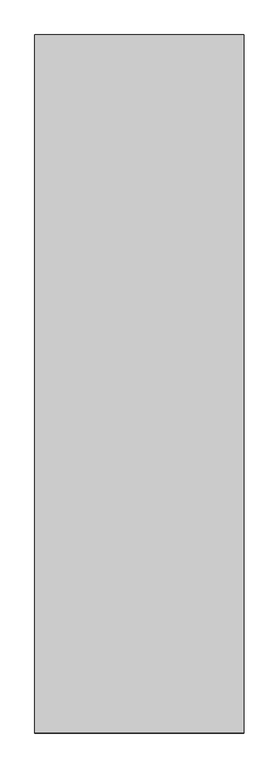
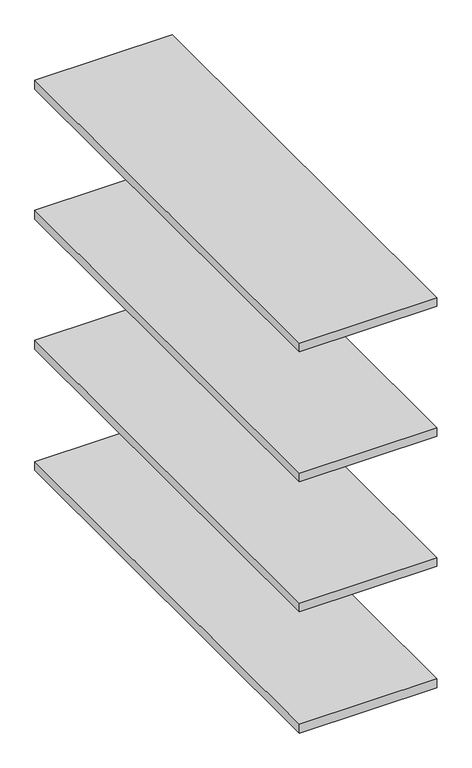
"""IFC4 building model written with IfcOpenShell, lengths in millimetres: proxy geometry, 香木隔板 : 香木隔板."""

import ifcopenshell
import ifcopenshell.guid

model = None  # the IFC model being written
_history = None  # IfcOwnerHistory: only IFC2X3 demands one
_inside = {}  # id of a spatial element -> (the spatial element, [elements in it])
_under = {}  # id of a project, library or spatial element -> (it, [spatial elements below it])
_declared = {}  # id of a project -> (the project, [libraries it declares])
_typed = {}  # id of a type object -> (the type object, [elements of that type])
_made_of = {}  # id of a material, layer set ... -> (it, [elements and type objects made of it])


def new_model(schema):
    """Start an empty IFC model of exactly this schema.

    Asked for "IFC4X3", IfcOpenShell would pick the latest addendum, in which some entities
    have other attributes; the version numbers below select the first issue.
    IFC2X3 requires an IfcOwnerHistory on every rooted entity: one is made here for all.
    """
    global model, _history
    if schema == "IFC4X3":
        model = ifcopenshell.file(schema_version=(4, 3, 0, 0))
    else:
        model = ifcopenshell.file(schema=schema)
    _inside.clear()
    _under.clear()
    _declared.clear()
    _typed.clear()
    _made_of.clear()
    _history = None
    if model.schema == "IFC2X3":
        org = make("IfcOrganization", Name="unknown")
        user = make(
            "IfcPersonAndOrganization",
            ThePerson=make("IfcPerson", FamilyName="unknown"),
            TheOrganization=org,
        )
        app = make(
            "IfcApplication",
            ApplicationDeveloper=org,
            Version="unknown",
            ApplicationFullName="unknown",
            ApplicationIdentifier="unknown",
        )
        _history = make(
            "IfcOwnerHistory",
            OwningUser=user,
            OwningApplication=app,
            ChangeAction="ADDED",
            CreationDate=0,
        )
    return model


def make(cls, **values):
    """One entity of the class cls with the attributes given. An attribute that is None is left unset."""
    return model.create_entity(
        cls, **{name: value for name, value in values.items() if value is not None}
    )


def rooted(cls, **values):
    """An entity with a GlobalId (a new one), such as an element, a storey or a relation."""
    return make(cls, GlobalId=ifcopenshell.guid.new(), OwnerHistory=_history, **values)


def si_unit(unit_type, name, prefix=None):
    """IfcSIUnit, for example si_unit("LENGTHUNIT", "METRE", prefix="MILLI")."""
    return make("IfcSIUnit", UnitType=unit_type, Prefix=prefix, Name=name)


def assignment(units):
    """IfcUnitAssignment: the units of a project."""
    return None if units is None else make("IfcUnitAssignment", Units=units)


def point(xyz):
    """IfcCartesianPoint."""
    return None if xyz is None else make("IfcCartesianPoint", Coordinates=xyz)


def direction(xyz):
    """IfcDirection."""
    return None if xyz is None else make("IfcDirection", DirectionRatios=xyz)


def frame(location, z_axis=None, x_axis=None):
    """IfcAxis2Placement3D, a coordinate frame: its origin and axes. An axis left out is left unset."""
    return make(
        "IfcAxis2Placement3D",
        Location=point(location),
        Axis=direction(z_axis),
        RefDirection=direction(x_axis),
    )


def origin():
    """The frame at (0, 0, 0) with its axes left unset."""
    return frame((0.0, 0.0, 0.0))


def place(relative_to, where):
    """IfcLocalPlacement: puts the frame where relative to a parent placement (None: the world)."""
    return make(
        "IfcLocalPlacement", PlacementRelTo=relative_to, RelativePlacement=where
    )


def context(
    kind, dimensions, precision=None, world=None, true_north=None, identifier=None
):
    """IfcGeometricRepresentationContext, for example the 3D "Model" context."""
    return make(
        "IfcGeometricRepresentationContext",
        ContextIdentifier=identifier,
        ContextType=kind,
        CoordinateSpaceDimension=dimensions,
        Precision=precision,
        WorldCoordinateSystem=world,
        TrueNorth=true_north,
    )


def project(units=None, contexts=None):
    """IfcProject with its units and contexts."""
    return rooted(
        "IfcProject",
        Name="project",
        RepresentationContexts=contexts,
        UnitsInContext=assignment(units),
    )


def spatial(cls, under=None, at=None, **own):
    """A site, building, storey or space (cls), placed at a placement, below another one or the project."""
    s = rooted(cls, ObjectPlacement=at, **own)
    if under is not None:
        _under.setdefault(under.id(), (under, []))[1].append(s)
    return s


def polyline(points):
    """IfcPolyline through the points."""
    return make("IfcPolyline", Points=[point(p) for p in points])


def outline(outer, holes=None, kind="AREA"):
    """IfcArbitraryClosedProfileDef: a profile drawn as a closed curve; with holes, ...WithVoids."""
    if holes is None:
        return make("IfcArbitraryClosedProfileDef", ProfileType=kind, OuterCurve=outer)
    return make(
        "IfcArbitraryProfileDefWithVoids",
        ProfileType=kind,
        OuterCurve=outer,
        InnerCurves=holes,
    )


def extrude(swept, where, along, depth):
    """IfcExtrudedAreaSolid: the profile swept, set in the frame where, extruded along a direction by depth."""
    return make(
        "IfcExtrudedAreaSolid",
        SweptArea=swept,
        Position=where,
        ExtrudedDirection=direction(along),
        Depth=depth,
    )


def shape(context_of_items, identifier, shape_type, items):
    """IfcShapeRepresentation: the items that make up one representation, for example the "Body"."""
    return make(
        "IfcShapeRepresentation",
        ContextOfItems=context_of_items,
        RepresentationIdentifier=identifier,
        RepresentationType=shape_type,
        Items=items,
    )


def source(mapping_origin, context_of_items, identifier, shape_type, items):
    """IfcRepresentationMap: a shape defined once, which mapped items show again and again."""
    return make(
        "IfcRepresentationMap",
        MappingOrigin=mapping_origin,
        MappedRepresentation=shape(context_of_items, identifier, shape_type, items),
    )


def transform(
    local_origin,
    x_axis=None,
    y_axis=None,
    z_axis=None,
    scale=None,
    scale2=None,
    scale3=None,
    uniform=True,
):
    """IfcCartesianTransformationOperator3D, or its non-uniform kind. x_axis, y_axis, z_axis: its Axis1, 2, 3."""
    if uniform:
        return make(
            "IfcCartesianTransformationOperator3D",
            Axis1=direction(x_axis),
            Axis2=direction(y_axis),
            LocalOrigin=point(local_origin),
            Scale=scale,
            Axis3=direction(z_axis),
        )
    return make(
        "IfcCartesianTransformationOperator3DnonUniform",
        Axis1=direction(x_axis),
        Axis2=direction(y_axis),
        LocalOrigin=point(local_origin),
        Scale=scale,
        Axis3=direction(z_axis),
        Scale2=scale2,
        Scale3=scale3,
    )


def mapped(mapping_source, mapping_target):
    """IfcMappedItem: shows the shape of a source again, moved by a transform."""
    return make(
        "IfcMappedItem", MappingSource=mapping_source, MappingTarget=mapping_target
    )


def made_of(thing, what):
    """Note that an element or type object is made of a material, layer set ...; save() writes the relation."""
    if what is not None:
        _made_of.setdefault(what.id(), (what, []))[1].append(thing)
    return thing


def element(
    cls,
    number,
    at=None,
    inside=None,
    cuts=None,
    type_object=None,
    material=None,
    context=None,
    identifier="Body",
    shape_type=None,
    held_by="IfcProductDefinitionShape",
    body=None,
    shapes=None,
    **own,
):
    """One element of the class cls, such as IfcWall. Its Tag is "e" and its number.

    at: its placement. inside: the storey or other place that contains it. cuts: it is an
    opening in that element (IfcRelVoidsElement). A single representation is given by context,
    identifier, shape_type and body (its items); several are given by shapes. held_by: the class
    of the entity that holds the representations. save() writes the other relations.
    """
    e = rooted(cls, Tag="e%d" % number, ObjectPlacement=at, **own)
    if body is not None:
        shapes = [shape(context, identifier, shape_type, body)]
    if shapes is not None:
        e.Representation = make(held_by, Representations=shapes)
    if inside is not None:
        _inside.setdefault(inside.id(), (inside, []))[1].append(e)
    if cuts is not None:
        rooted(
            "IfcRelVoidsElement", RelatingBuildingElement=cuts, RelatedOpeningElement=e
        )
    if type_object is not None:
        _typed.setdefault(type_object.id(), (type_object, []))[1].append(e)
    return made_of(e, material)


def aggregate(whole, parts):
    """IfcRelAggregates: a whole, such as a stair, and the parts it consists of."""
    return rooted("IfcRelAggregates", RelatingObject=whole, RelatedObjects=parts)


def save(model, path):
    """Write the relations noted so far, then the file.

    IfcRelAggregates (storeys below a building ...), IfcRelContainedInSpatialStructure (elements
    in a storey), IfcRelDefinesByType, IfcRelAssociatesMaterial and IfcRelDeclares: one each for
    every whole, place, type object, material and project.
    """
    for whole, parts in _under.values():
        aggregate(whole, parts)
    for where, things in _inside.values():
        rooted(
            "IfcRelContainedInSpatialStructure",
            RelatedElements=things,
            RelatingStructure=where,
        )
    for kind, things in _typed.values():
        rooted("IfcRelDefinesByType", RelatedObjects=things, RelatingType=kind)
    for what, things in _made_of.values():
        rooted("IfcRelAssociatesMaterial", RelatedObjects=things, RelatingMaterial=what)
    for by, libraries in _declared.values():
        rooted("IfcRelDeclares", RelatingContext=by, RelatedDefinitions=libraries)
    model.write(path)


def specialty_equipment_e69ed6fe(model_context):
    return source(origin(), model_context, "Body", "SweptSolid", [
        extrude(outline(polyline([(150.0, -500.0), (-150.0, -500.0), (-150.0, 500.0), (150.0, 500.0), (150.0, -500.0)])), frame((0.0, 0.0, 780.0), z_axis=(0.0, 0.0, 1.0), x_axis=(1.0, 0.0, 0.0)), (0.0, 0.0, 1.0), 20.0),
        extrude(outline(polyline([(150.0, -500.0), (-150.0, -500.0), (-150.0, 500.0), (150.0, 500.0), (150.0, -500.0)])), frame((0.0, 0.0, 1080.0), z_axis=(0.0, 0.0, 1.0), x_axis=(1.0, 0.0, 0.0)), (0.0, 0.0, 1.0), 20.0),
        extrude(outline(polyline([(150.0, -500.0), (-150.0, -500.0), (-150.0, 500.0), (150.0, 500.0), (150.0, -500.0)])), frame((0.0, 0.0, 480.0), z_axis=(0.0, 0.0, 1.0), x_axis=(1.0, 0.0, 0.0)), (0.0, 0.0, 1.0), 20.0),
        extrude(outline(polyline([(150.0, -500.0), (-150.0, -500.0), (-150.0, 500.0), (150.0, 500.0), (150.0, -500.0)])), frame((0.0, 0.0, 200.0), z_axis=(0.0, 0.0, 1.0), x_axis=(1.0, 0.0, 0.0)), (0.0, 0.0, 1.0), 20.0),
    ])


if __name__ == "__main__":
    model = new_model("IFC4")
    model_context = context("Model", 3, world=origin())
    ifc_project = project(units=[si_unit("LENGTHUNIT", "METRE", prefix="MILLI")], contexts=[model_context])
    site = spatial("IfcSite", under=ifc_project)
    building = spatial("IfcBuilding", under=site)
    placement = place(None, origin())
    specialty_equipment_shape = specialty_equipment_e69ed6fe(model_context)
    element("IfcBuildingElementProxy", 1, Name="香木隔板 : 香木隔板", ObjectType="香木隔板 : 香木隔板", at=placement, inside=building, context=model_context, shape_type="MappedRepresentation", body=[
        mapped(specialty_equipment_shape, transform((0.0, 0.0, 0.0), x_axis=(1.0, 0.0, 0.0), y_axis=(0.0, 1.0, 0.0), z_axis=(0.0, 0.0, 1.0))),
    ])
    save(model, "model.ifc")
